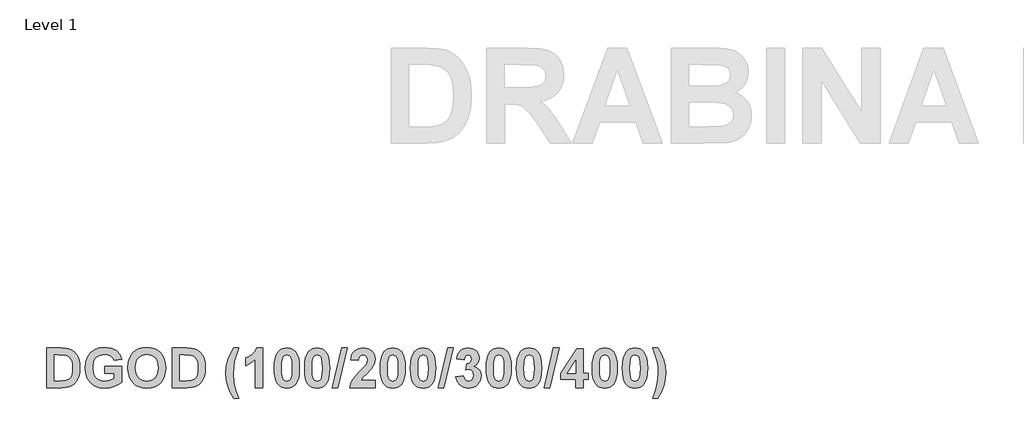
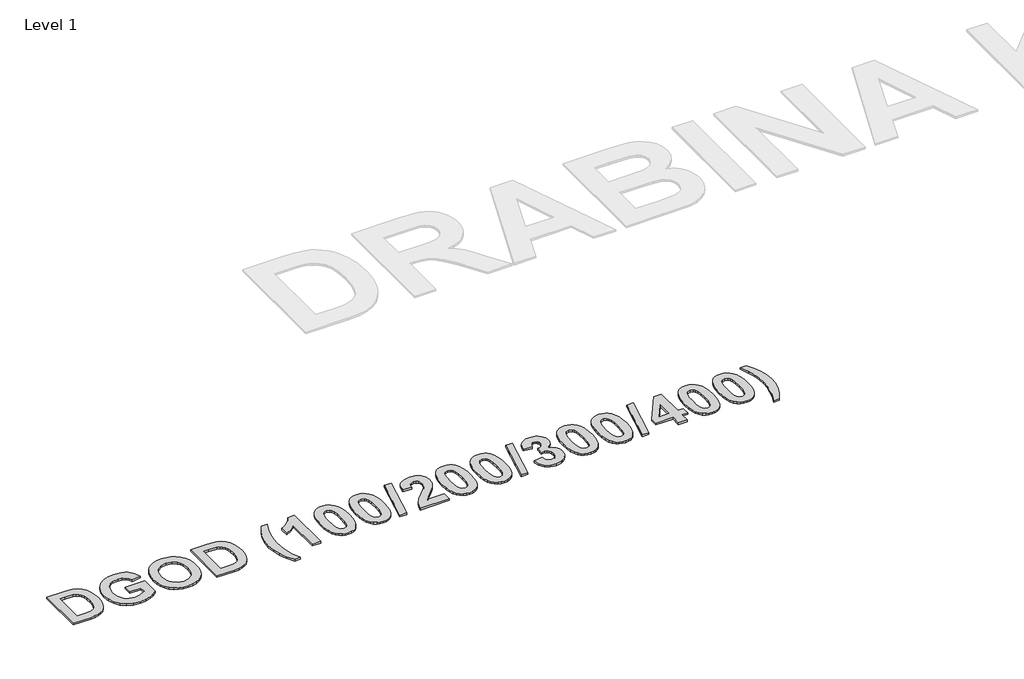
# One storey, part 28 of 42: 1 proxy.
"""IFC4 building model written with IfcOpenShell, lengths in millimetres."""

from ifc_helpers import new_model, si_unit, origin, origin_with_axes, place, context, project, spatial, polyline, outline, extrude, element, save

model = new_model("IFC4")

# Units and contexts
model_context = context("Model", 3, world=origin())
ifc_project = project(units=[si_unit("LENGTHUNIT", "METRE", prefix="MILLI")], contexts=[model_context])

# Site, building, storey
site = spatial("IfcSite", under=ifc_project)
building = spatial("IfcBuilding", under=site)
storey = spatial("IfcBuildingStorey", under=building, Name="Level 1", Elevation=0.0)

# Proxy
placement = place(None, origin())
element("IfcBuildingElementProxy", 1, Name="300mm Arial 2", ObjectType="300mm Arial 2", at=placement, inside=storey, context=model_context, shape_type="SweptSolid", body=[
    extrude(outline(polyline([(13543.7052644, 4462.1558373), (13638.1526406, 4462.1558373), (13666.3033991, 4460.9380798), (13686.8629418, 4457.2848072), (13707.7704153, 4448.0883656), (13725.451622, 4433.7836684), (13739.5981689, 4415.0270394), (13749.9016628, 4392.4748025), (13756.1881384, 4365.1701483), (13758.2836302, 4332.1562672), (13756.3225661, 4302.8668264), (13750.4393739, 4277.8790744), (13738.7678797, 4252.7015421), (13722.9844769, 4232.8378608), (13707.2010741, 4221.2296267), (13686.6731614, 4212.4680985), (13666.6987749, 4208.4352651), (13640.9360864, 4207.0909873), (13543.7052644, 4207.0909873), (13543.7052644, 4462.1558373)]), holes=[polyline([(13592.2890453, 4417.6207048), (13592.2890453, 4251.6261199), (13633.6611713, 4251.6261199), (13667.1890409, 4254.0300049), (13689.5514974, 4264.4362965), (13697.6250717, 4274.1704492), (13704.0696976, 4288.6332968), (13708.2923113, 4308.5286081), (13709.6998493, 4334.5601522), (13708.2923113, 4360.2279505), (13704.0696976, 4379.1585449), (13697.3245861, 4393.0125137), (13688.3495549, 4403.4504354), (13676.8915636, 4410.7569805), (13662.6975716, 4415.2168198), (13617.2135371, 4417.6207048), (13592.2890453, 4417.6207048)])]), origin_with_axes(), (0.0, 0.0, 1.0), 10.0),
    extrude(outline(polyline([(13916.1809183, 4300.2099008), (13916.1809183, 4344.7450334), (14025.4944254, 4344.7450334), (14025.4944254, 4243.022742), (14005.9786749, 4228.1012585), (13979.3145295, 4215.093394), (13948.8864063, 4206.0551027), (13918.0787223, 4203.0423389), (13881.2455107, 4207.2333226), (13849.4414796, 4219.8062738), (13823.7894963, 4240.1681286), (13805.4124281, 4267.7258233), (13794.3577202, 4300.2494384), (13790.6728175, 4335.5090542), (13794.8400787, 4373.0302196), (13807.3418622, 4406.1389909), (13827.8776823, 4433.4436452), (13856.1470536, 4453.5524595), (13883.6335807, 4463.0414792), (13917.1298203, 4466.2044857), (13959.3322355, 4461.0962301), (13976.5488756, 4454.7109106), (13991.1758041, 4445.7714633), (14013.0875322, 4421.4321277), (14025.4944254, 4389.2801659), (13976.9106445, 4381.1828691), (13968.7342725, 4397.9863415), (13955.5919802, 4410.8202407), (13938.0214787, 4418.9570751), (13916.5604791, 4421.6693532), (13884.756448, 4416.3713172), (13871.5706644, 4409.7487722), (13860.195702, 4400.4772092), (13851.0348442, 4388.5961657), (13844.4913743, 4374.1451795), (13839.2565985, 4337.5333784), (13844.4597443, 4298.1776691), (13850.9636765, 4282.7164976), (13860.0691817, 4270.0664482), (13871.2859938, 4260.2275209), (13884.1238467, 4253.1997157), (13914.6626752, 4247.5774715), (13948.0956546, 4253.7453343), (13976.9106445, 4268.7063554), (13976.9106445, 4300.2099008), (13916.1809183, 4300.2099008)])), origin_with_axes(), (0.0, 0.0, 1.0), 10.0),
    extrude(outline(polyline([(14065.9809096, 4333.0419091), (14068.8434305, 4368.8155134), (14077.4309934, 4398.3263647), (14087.5288918, 4416.7587855), (14100.7423518, 4433.2143272), (14116.2173615, 4446.6808277), (14133.099909, 4456.1461248), (14158.3090714, 4463.6898955), (14187.1240613, 4466.2044857), (14213.4165534, 4464.0239881), (14236.9414148, 4457.4824951), (14257.6986454, 4446.5800068), (14275.6882453, 4431.3165233), (14290.2183068, 4412.1704491), (14300.5969221, 4389.6201891), (14306.8240913, 4363.6657433), (14308.8998143, 4334.3071117), (14306.8399063, 4305.1481448), (14300.6601822, 4279.3498725), (14290.3606421, 4256.9122946), (14275.9412858, 4237.8354112), (14258.0702987, 4222.6134421), (14237.4158658, 4211.740607), (14213.9779871, 4205.216906), (14187.7566626, 4203.0423389), (14161.258575, 4205.2070216), (14137.6230084, 4211.7010694), (14116.8499628, 4222.5244825), (14098.9394381, 4237.6772609), (14084.5200818, 4256.6256471), (14074.2205417, 4278.8358839), (14068.0408176, 4304.3079712), (14065.9809096, 4333.0419091)]), holes=[polyline([(14114.5646905, 4334.8131927), (14119.7282988, 4297.0627093), (14126.182809, 4282.0898269), (14135.2191234, 4269.7185175), (14158.6649097, 4253.112733), (14187.6934025, 4247.5774715), (14216.6586352, 4253.0731954), (14239.914641, 4269.5603672), (14248.8402502, 4281.925746), (14255.2156853, 4297.0389867), (14260.3160334, 4335.5090542), (14255.3501131, 4373.4018729), (14249.1427127, 4388.2205587), (14240.4523521, 4400.2874288), (14217.3307741, 4416.3238721), (14187.6934025, 4421.6693532), (14157.9927708, 4416.260612), (14134.6814123, 4400.0343883), (14125.8803465, 4387.8449517), (14119.593871, 4372.9116069), (14114.5646905, 4334.8131927)])]), origin_with_axes(), (0.0, 0.0, 1.0), 10.0),
    extrude(outline(polyline([(14349.3862984, 4462.1558373), (14443.8336747, 4462.1558373), (14471.9844332, 4460.9380798), (14492.5439759, 4457.2848072), (14513.4514494, 4448.0883656), (14531.1326561, 4433.7836684), (14545.279203, 4415.0270394), (14555.5826969, 4392.4748025), (14561.8691725, 4365.1701483), (14563.9646643, 4332.1562672), (14562.0036002, 4302.8668264), (14556.120408, 4277.8790744), (14544.4489138, 4252.7015421), (14528.665511, 4232.8378608), (14512.8821082, 4221.2296267), (14492.3541955, 4212.4680985), (14472.379809, 4208.4352651), (14446.6171205, 4207.0909873), (14349.3862984, 4207.0909873), (14349.3862984, 4462.1558373)]), holes=[polyline([(14397.9700794, 4417.6207048), (14397.9700794, 4251.6261199), (14439.3422054, 4251.6261199), (14472.870075, 4254.0300049), (14495.2325315, 4264.4362965), (14503.3061058, 4274.1704492), (14509.7507317, 4288.6332968), (14513.9733454, 4308.5286081), (14515.3808834, 4334.5601522), (14513.9733454, 4360.2279505), (14509.7507317, 4379.1585449), (14503.0056201, 4393.0125137), (14494.030589, 4403.4504354), (14482.5725977, 4410.7569805), (14468.3786057, 4415.2168198), (14422.8945712, 4417.6207048), (14397.9700794, 4417.6207048)])]), origin_with_axes(), (0.0, 0.0, 1.0), 10.0),
    extrude(outline(polyline([(14778.5430302, 4138.2639643), (14746.1538429, 4138.2639643), (14723.4829933, 4177.9359743), (14706.9641914, 4219.1420424), (14696.882108, 4260.4430007), (14693.5214135, 4300.3996812), (14697.6333221, 4347.7973347), (14709.9690477, 4392.5696927), (14726.1636413, 4428.8493781), (14746.1538429, 4462.1558373), (14778.5430302, 4462.1558373), (14760.9804362, 4414.9163342), (14749.9178207, 4375.2996769), (14744.058351, 4338.4190202), (14742.1051945, 4299.3875191), (14746.7864442, 4242.7380714), (14759.6282509, 4187.670127), (14778.5430302, 4138.2639643)])), origin_with_axes(), (0.0, 0.0, 1.0), 10.0),
    extrude(outline(polyline([(14932.3916699, 4207.0909873), (14883.8078889, 4207.0909873), (14883.8078889, 4389.4066862), (14855.7520206, 4365.5259866), (14823.0781627, 4348.7936818), (14823.0781627, 4397.3774627), (14842.5464682, 4406.4631991), (14863.627907, 4421.1949022), (14882.0840503, 4440.2124792), (14893.6764694, 4462.1558373), (14932.3916699, 4462.1558373), (14932.3916699, 4207.0909873)])), origin_with_axes(), (0.0, 0.0, 1.0), 10.0),
    extrude(outline(polyline([(15086.2403095, 4462.1558373), (15103.3719439, 4460.5110739), (15118.5187916, 4455.5767837), (15131.6808527, 4447.3529666), (15142.8581272, 4435.8396227), (15153.5135056, 4417.7116412), (15161.1244901, 4394.4516817), (15165.6910809, 4366.0597439), (15167.2132778, 4332.535828), (15165.6831733, 4299.0435422), (15161.0928601, 4270.6199744), (15153.4423379, 4247.2651246), (15142.7316069, 4228.9789928), (15131.609685, 4217.6317067), (15118.4871615, 4209.5265024), (15103.3640364, 4204.6633798), (15086.2403095, 4203.0423389), (15068.9327329, 4204.8215301), (15053.3845788, 4210.1591037), (15039.595847, 4219.0550597), (15027.5665376, 4231.5093981), (15017.8106392, 4248.5303272), (15010.8421404, 4271.1260554), (15006.661041, 4299.2965827), (15005.2673413, 4333.0419091), (15006.7974457, 4366.3681371), (15011.387759, 4394.6730921), (15019.0382811, 4417.9567742), (15029.7490121, 4436.2191834), (15040.870934, 4447.5664695), (15053.9934575, 4455.6716739), (15069.1165827, 4460.5347965), (15086.2403095, 4462.1558373)]), holes=[polyline([(15086.2403095, 4417.6207048), (15070.0457159, 4412.2752237), (15063.7197027, 4404.8026207), (15059.038453, 4393.0757738), (15055.1479549, 4368.9262186), (15053.8511222, 4332.535828), (15055.0056196, 4296.6277959), (15058.4691118, 4274.0518365), (15063.6959802, 4260.7988389), (15070.1406061, 4252.8596924), (15086.2403095, 4247.5774715), (15102.4349032, 4252.9229526), (15108.7609163, 4260.3955556), (15113.442166, 4272.1224025), (15117.3326641, 4296.1454374), (15118.6294968, 4332.535828), (15117.4749994, 4368.4043225), (15114.0115072, 4390.9881895), (15108.7846389, 4404.2807246), (15102.340013, 4412.2752237), (15086.2403095, 4417.6207048)])]), origin_with_axes(), (0.0, 0.0, 1.0), 10.0),
    extrude(outline(polyline([(15280.5754333, 4462.1558373), (15297.7070677, 4460.5110739), (15312.8539154, 4455.5767837), (15326.0159765, 4447.3529666), (15337.193251, 4435.8396227), (15347.8486294, 4417.7116412), (15355.4596139, 4394.4516817), (15360.0262047, 4366.0597439), (15361.5484016, 4332.535828), (15360.0182972, 4299.0435422), (15355.4279839, 4270.6199744), (15347.7774617, 4247.2651246), (15337.0667307, 4228.9789928), (15325.9448089, 4217.6317067), (15312.8222853, 4209.5265024), (15297.6991602, 4204.6633798), (15280.5754333, 4203.0423389), (15263.2678567, 4204.8215301), (15247.7197026, 4210.1591037), (15233.9309708, 4219.0550597), (15221.9016614, 4231.5093981), (15212.145763, 4248.5303272), (15205.1772642, 4271.1260554), (15200.9961648, 4299.2965827), (15199.6024651, 4333.0419091), (15201.1325695, 4366.3681371), (15205.7228828, 4394.6730921), (15213.3734049, 4417.9567742), (15224.0841359, 4436.2191834), (15235.2060578, 4447.5664695), (15248.3285813, 4455.6716739), (15263.4517065, 4460.5347965), (15280.5754333, 4462.1558373)]), holes=[polyline([(15280.5754333, 4417.6207048), (15264.3808397, 4412.2752237), (15258.0548265, 4404.8026207), (15253.3735768, 4393.0757738), (15249.4830787, 4368.9262186), (15248.186246, 4332.535828), (15249.3407434, 4296.6277959), (15252.8042356, 4274.0518365), (15258.031104, 4260.7988389), (15264.4757299, 4252.8596924), (15280.5754333, 4247.5774715), (15296.770027, 4252.9229526), (15303.0960401, 4260.3955556), (15307.7772899, 4272.1224025), (15311.6677879, 4296.1454374), (15312.9646206, 4332.535828), (15311.8101232, 4368.4043225), (15308.346631, 4390.9881895), (15303.1197627, 4404.2807246), (15296.6751368, 4412.2752237), (15280.5754333, 4417.6207048)])]), origin_with_axes(), (0.0, 0.0, 1.0), 10.0),
    extrude(outline(polyline([(15376.8573534, 4207.0909873), (15437.5870796, 4462.1558373), (15474.9105571, 4462.1558373), (15414.1808309, 4207.0909873), (15376.8573534, 4207.0909873)])), origin_with_axes(), (0.0, 0.0, 1.0), 10.0),
    extrude(outline(polyline([(15653.0510873, 4255.6747683), (15653.0510873, 4207.0909873), (15491.1051508, 4207.0909873), (15496.2766665, 4231.5963808), (15506.603883, 4254.7574964), (15525.7875178, 4280.9392833), (15557.5282888, 4314.5066905), (15595.1048069, 4355.2462152), (15602.1266815, 4369.9541958), (15604.4673063, 4384.4723959), (15602.4983347, 4398.6189428), (15596.59142, 4409.048957), (15587.221013, 4415.4777678), (15574.8615648, 4417.6207048), (15562.5890993, 4415.5093979), (15553.1000796, 4409.1754773), (15546.7108063, 4397.9547114), (15543.7375801, 4381.1828691), (15495.1537992, 4385.6110783), (15503.7571771, 4420.7599888), (15511.3800229, 4433.9991482), (15521.2169733, 4444.3481103), (15545.8409795, 4457.7039056), (15575.936987, 4462.1558373), (15608.0731338, 4457.1661945), (15632.4915446, 4442.1972659), (15647.9112016, 4419.8110869), (15653.0510873, 4392.5696927), (15647.4209356, 4360.433546), (15629.5815785, 4328.4871796), (15599.3748658, 4296.6040733), (15571.6352981, 4268.9593959), (15562.5258392, 4255.6747683), (15653.0510873, 4255.6747683)])), origin_with_axes(), (0.0, 0.0, 1.0), 10.0),
    extrude(outline(polyline([(15766.4132428, 4462.1558373), (15783.5448772, 4460.5110739), (15798.6917249, 4455.5767837), (15811.853786, 4447.3529666), (15823.0310605, 4435.8396227), (15833.6864389, 4417.7116412), (15841.2974234, 4394.4516817), (15845.8640142, 4366.0597439), (15847.3862111, 4332.535828), (15845.8561067, 4299.0435422), (15841.2657934, 4270.6199744), (15833.6152712, 4247.2651246), (15822.9045402, 4228.9789928), (15811.7826184, 4217.6317067), (15798.6600948, 4209.5265024), (15783.5369697, 4204.6633798), (15766.4132428, 4203.0423389), (15749.1056662, 4204.8215301), (15733.5575121, 4210.1591037), (15719.7687803, 4219.0550597), (15707.7394709, 4231.5093981), (15697.9835725, 4248.5303272), (15691.0150737, 4271.1260554), (15686.8339744, 4299.2965827), (15685.4402746, 4333.0419091), (15686.970379, 4366.3681371), (15691.5606923, 4394.6730921), (15699.2112144, 4417.9567742), (15709.9219455, 4436.2191834), (15721.0438673, 4447.5664695), (15734.1663908, 4455.6716739), (15749.289516, 4460.5347965), (15766.4132428, 4462.1558373)]), holes=[polyline([(15766.4132428, 4417.6207048), (15750.2186492, 4412.2752237), (15743.892636, 4404.8026207), (15739.2113863, 4393.0757738), (15735.3208882, 4368.9262186), (15734.0240555, 4332.535828), (15735.1785529, 4296.6277959), (15738.6420451, 4274.0518365), (15743.8689135, 4260.7988389), (15750.3135394, 4252.8596924), (15766.4132428, 4247.5774715), (15782.6078365, 4252.9229526), (15788.9338496, 4260.3955556), (15793.6150994, 4272.1224025), (15797.5055974, 4296.1454374), (15798.8024301, 4332.535828), (15797.6479327, 4368.4043225), (15794.1844405, 4390.9881895), (15788.9575722, 4404.2807246), (15782.5129463, 4412.2752237), (15766.4132428, 4417.6207048)])]), origin_with_axes(), (0.0, 0.0, 1.0), 10.0),
    extrude(outline(polyline([(15960.7483666, 4462.1558373), (15977.880001, 4460.5110739), (15993.0268487, 4455.5767837), (16006.1889098, 4447.3529666), (16017.3661843, 4435.8396227), (16028.0215627, 4417.7116412), (16035.6325472, 4394.4516817), (16040.199138, 4366.0597439), (16041.7213349, 4332.535828), (16040.1912305, 4299.0435422), (16035.6009172, 4270.6199744), (16027.950395, 4247.2651246), (16017.239664, 4228.9789928), (16006.1177422, 4217.6317067), (15992.9952186, 4209.5265024), (15977.8720935, 4204.6633798), (15960.7483666, 4203.0423389), (15943.44079, 4204.8215301), (15927.8926359, 4210.1591037), (15914.1039041, 4219.0550597), (15902.0745947, 4231.5093981), (15892.3186963, 4248.5303272), (15885.3501975, 4271.1260554), (15881.1690982, 4299.2965827), (15879.7753984, 4333.0419091), (15881.3055028, 4366.3681371), (15885.8958161, 4394.6730921), (15893.5463382, 4417.9567742), (15904.2570693, 4436.2191834), (15915.3789911, 4447.5664695), (15928.5015146, 4455.6716739), (15943.6246398, 4460.5347965), (15960.7483666, 4462.1558373)]), holes=[polyline([(15960.7483666, 4417.6207048), (15944.553773, 4412.2752237), (15938.2277598, 4404.8026207), (15933.5465101, 4393.0757738), (15929.656012, 4368.9262186), (15928.3591793, 4332.535828), (15929.5136767, 4296.6277959), (15932.9771689, 4274.0518365), (15938.2040373, 4260.7988389), (15944.6486632, 4252.8596924), (15960.7483666, 4247.5774715), (15976.9429603, 4252.9229526), (15983.2689734, 4260.3955556), (15987.9502232, 4272.1224025), (15991.8407212, 4296.1454374), (15993.1375539, 4332.535828), (15991.9830565, 4368.4043225), (15988.5195643, 4390.9881895), (15983.292696, 4404.2807246), (15976.8480701, 4412.2752237), (15960.7483666, 4417.6207048)])]), origin_with_axes(), (0.0, 0.0, 1.0), 10.0),
    extrude(outline(polyline([(16057.0302867, 4207.0909873), (16117.7600129, 4462.1558373), (16155.0834904, 4462.1558373), (16094.3537642, 4207.0909873), (16057.0302867, 4207.0909873)])), origin_with_axes(), (0.0, 0.0, 1.0), 10.0),
    extrude(outline(polyline([(16171.2780841, 4278.3851555), (16219.861865, 4284.0153072), (16223.6100278, 4268.3900547), (16230.8058678, 4256.9399709), (16240.6586332, 4249.9180963), (16252.3775726, 4247.5774715), (16264.9505237, 4250.2581195), (16275.3410003, 4258.3000638), (16282.3154298, 4270.8809224), (16284.6402396, 4287.1783138), (16282.5131177, 4302.5979708), (16276.131752, 4314.4434304), (16266.6822698, 4321.9872011), (16255.3507988, 4324.5017913), (16236.0564587, 4320.8959638), (16240.2948875, 4360.939627), (16254.1251337, 4362.6792806), (16264.2388472, 4368.9104036), (16270.4304326, 4378.7789841), (16272.4942944, 4391.4310104), (16270.9523287, 4402.1773252), (16266.3264316, 4410.50394), (16259.1384991, 4415.8415136), (16249.9104275, 4417.6207048), (16240.5242055, 4415.556843), (16232.6087815, 4409.3652576), (16226.844202, 4399.204099), (16223.9105134, 4385.2315175), (16175.3267325, 4392.5064326), (16180.8857165, 4414.2441953), (16188.7062503, 4431.1267429), (16199.4288426, 4444.0397172), (16213.6940022, 4453.8687601), (16230.687255, 4460.084068), (16249.5941268, 4462.1558373), (16280.2436605, 4456.4149804), (16293.0301146, 4449.2389092), (16304.1243601, 4439.1924096), (16316.8396465, 4419.170578), (16321.0780753, 4396.6816013), (16318.8046644, 4380.7360944), (16311.9844315, 4366.4907036), (16300.6173766, 4353.9454287), (16284.7034998, 4343.10027), (16304.567181, 4335.5485918), (16320.0026531, 4322.2560566), (16329.9186787, 4304.392977), (16333.2240206, 4283.1296653), (16327.3645509, 4252.3615189), (16309.7861419, 4226.4802176), (16297.3495954, 4216.2261457), (16283.4778347, 4208.9018086), (16251.4286706, 4203.0423389), (16221.1666052, 4208.2533923), (16196.5505066, 4223.8865522), (16179.3358433, 4247.9333097), (16171.2780841, 4278.3851555)])), origin_with_axes(), (0.0, 0.0, 1.0), 10.0),
    extrude(outline(polyline([(16446.5861761, 4462.1558373), (16463.7178105, 4460.5110739), (16478.8646582, 4455.5767837), (16492.0267193, 4447.3529666), (16503.2039938, 4435.8396227), (16513.8593722, 4417.7116412), (16521.4703567, 4394.4516817), (16526.0369475, 4366.0597439), (16527.5591444, 4332.535828), (16526.02904, 4299.0435422), (16521.4387267, 4270.6199744), (16513.7882045, 4247.2651246), (16503.0774735, 4228.9789928), (16491.9555517, 4217.6317067), (16478.8330281, 4209.5265024), (16463.709903, 4204.6633798), (16446.5861761, 4203.0423389), (16429.2785995, 4204.8215301), (16413.7304454, 4210.1591037), (16399.9417136, 4219.0550597), (16387.9124042, 4231.5093981), (16378.1565058, 4248.5303272), (16371.188007, 4271.1260554), (16367.0069077, 4299.2965827), (16365.6132079, 4333.0419091), (16367.1433123, 4366.3681371), (16371.7336256, 4394.6730921), (16379.3841478, 4417.9567742), (16390.0948788, 4436.2191834), (16401.2168006, 4447.5664695), (16414.3393241, 4455.6716739), (16429.4624493, 4460.5347965), (16446.5861761, 4462.1558373)]), holes=[polyline([(16446.5861761, 4417.6207048), (16430.3915825, 4412.2752237), (16424.0655693, 4404.8026207), (16419.3843196, 4393.0757738), (16415.4938215, 4368.9262186), (16414.1969888, 4332.535828), (16415.3514862, 4296.6277959), (16418.8149784, 4274.0518365), (16424.0418468, 4260.7988389), (16430.4864727, 4252.8596924), (16446.5861761, 4247.5774715), (16462.7807698, 4252.9229526), (16469.1067829, 4260.3955556), (16473.7880327, 4272.1224025), (16477.6785307, 4296.1454374), (16478.9753634, 4332.535828), (16477.820866, 4368.4043225), (16474.3573738, 4390.9881895), (16469.1305055, 4404.2807246), (16462.6858796, 4412.2752237), (16446.5861761, 4417.6207048)])]), origin_with_axes(), (0.0, 0.0, 1.0), 10.0),
    extrude(outline(polyline([(16640.9212999, 4462.1558373), (16658.0529343, 4460.5110739), (16673.199782, 4455.5767837), (16686.3618431, 4447.3529666), (16697.5391176, 4435.8396227), (16708.194496, 4417.7116412), (16715.8054805, 4394.4516817), (16720.3720713, 4366.0597439), (16721.8942682, 4332.535828), (16720.3641638, 4299.0435422), (16715.7738505, 4270.6199744), (16708.1233283, 4247.2651246), (16697.4125973, 4228.9789928), (16686.2906755, 4217.6317067), (16673.1681519, 4209.5265024), (16658.0450268, 4204.6633798), (16640.9212999, 4203.0423389), (16623.6137234, 4204.8215301), (16608.0655692, 4210.1591037), (16594.2768374, 4219.0550597), (16582.247528, 4231.5093981), (16572.4916296, 4248.5303272), (16565.5231308, 4271.1260554), (16561.3420315, 4299.2965827), (16559.9483317, 4333.0419091), (16561.4784361, 4366.3681371), (16566.0687494, 4394.6730921), (16573.7192716, 4417.9567742), (16584.4300026, 4436.2191834), (16595.5519244, 4447.5664695), (16608.6744479, 4455.6716739), (16623.7975731, 4460.5347965), (16640.9212999, 4462.1558373)]), holes=[polyline([(16640.9212999, 4417.6207048), (16624.7267063, 4412.2752237), (16618.4006931, 4404.8026207), (16613.7194434, 4393.0757738), (16609.8289453, 4368.9262186), (16608.5321126, 4332.535828), (16609.68661, 4296.6277959), (16613.1501022, 4274.0518365), (16618.3769706, 4260.7988389), (16624.8215965, 4252.8596924), (16640.9212999, 4247.5774715), (16657.1158936, 4252.9229526), (16663.4419067, 4260.3955556), (16668.1231565, 4272.1224025), (16672.0136545, 4296.1454374), (16673.3104872, 4332.535828), (16672.1559898, 4368.4043225), (16668.6924976, 4390.9881895), (16663.4656293, 4404.2807246), (16657.0210034, 4412.2752237), (16640.9212999, 4417.6207048)])]), origin_with_axes(), (0.0, 0.0, 1.0), 10.0),
    extrude(outline(polyline([(16737.20322, 4207.0909873), (16797.9329462, 4462.1558373), (16835.2564237, 4462.1558373), (16774.5266976, 4207.0909873), (16737.20322, 4207.0909873)])), origin_with_axes(), (0.0, 0.0, 1.0), 10.0),
    extrude(outline(polyline([(16940.5212825, 4207.0909873), (16940.5212825, 4259.7234167), (16843.3537206, 4259.7234167), (16843.3537206, 4300.0201204), (16946.9738159, 4458.1071889), (16989.1050634, 4458.1071889), (16989.1050634, 4300.2099008), (17021.4942507, 4300.2099008), (17021.4942507, 4259.7234167), (16989.1050634, 4259.7234167), (16989.1050634, 4207.0909873), (16940.5212825, 4207.0909873)]), holes=[polyline([(16940.5212825, 4300.2099008), (16940.5212825, 4383.080673), (16886.2440897, 4300.2099008), (16940.5212825, 4300.2099008)])]), origin_with_axes(), (0.0, 0.0, 1.0), 10.0),
    extrude(outline(polyline([(17126.7591094, 4462.1558373), (17143.8907438, 4460.5110739), (17159.0375915, 4455.5767837), (17172.1996526, 4447.3529666), (17183.3769271, 4435.8396227), (17194.0323055, 4417.7116412), (17201.64329, 4394.4516817), (17206.2098808, 4366.0597439), (17207.7320777, 4332.535828), (17206.2019733, 4299.0435422), (17201.61166, 4270.6199744), (17193.9611378, 4247.2651246), (17183.2504068, 4228.9789928), (17172.128485, 4217.6317067), (17159.0059614, 4209.5265024), (17143.8828363, 4204.6633798), (17126.7591094, 4203.0423389), (17109.4515329, 4204.8215301), (17093.9033787, 4210.1591037), (17080.1146469, 4219.0550597), (17068.0853375, 4231.5093981), (17058.3294391, 4248.5303272), (17051.3609403, 4271.1260554), (17047.179841, 4299.2965827), (17045.7861412, 4333.0419091), (17047.3162456, 4366.3681371), (17051.9065589, 4394.6730921), (17059.5570811, 4417.9567742), (17070.2678121, 4436.2191834), (17081.3897339, 4447.5664695), (17094.5122574, 4455.6716739), (17109.6353826, 4460.5347965), (17126.7591094, 4462.1558373)]), holes=[polyline([(17126.7591094, 4417.6207048), (17110.5645158, 4412.2752237), (17104.2385026, 4404.8026207), (17099.5572529, 4393.0757738), (17095.6667548, 4368.9262186), (17094.3699221, 4332.535828), (17095.5244195, 4296.6277959), (17098.9879117, 4274.0518365), (17104.2147801, 4260.7988389), (17110.659406, 4252.8596924), (17126.7591094, 4247.5774715), (17142.9537031, 4252.9229526), (17149.2797162, 4260.3955556), (17153.960966, 4272.1224025), (17157.851464, 4296.1454374), (17159.1482967, 4332.535828), (17157.9937993, 4368.4043225), (17154.5303071, 4390.9881895), (17149.3034388, 4404.2807246), (17142.8588129, 4412.2752237), (17126.7591094, 4417.6207048)])]), origin_with_axes(), (0.0, 0.0, 1.0), 10.0),
    extrude(outline(polyline([(17321.0942332, 4462.1558373), (17338.2258676, 4460.5110739), (17353.3727153, 4455.5767837), (17366.5347764, 4447.3529666), (17377.7120509, 4435.8396227), (17388.3674293, 4417.7116412), (17395.9784138, 4394.4516817), (17400.5450046, 4366.0597439), (17402.0672015, 4332.535828), (17400.5370971, 4299.0435422), (17395.9467838, 4270.6199744), (17388.2962616, 4247.2651246), (17377.5855306, 4228.9789928), (17366.4636088, 4217.6317067), (17353.3410852, 4209.5265024), (17338.2179601, 4204.6633798), (17321.0942332, 4203.0423389), (17303.7866567, 4204.8215301), (17288.2385025, 4210.1591037), (17274.4497707, 4219.0550597), (17262.4204613, 4231.5093981), (17252.6645629, 4248.5303272), (17245.6960641, 4271.1260554), (17241.5149648, 4299.2965827), (17240.121265, 4333.0419091), (17241.6513694, 4366.3681371), (17246.2416827, 4394.6730921), (17253.8922049, 4417.9567742), (17264.6029359, 4436.2191834), (17275.7248577, 4447.5664695), (17288.8473812, 4455.6716739), (17303.9705064, 4460.5347965), (17321.0942332, 4462.1558373)]), holes=[polyline([(17321.0942332, 4417.6207048), (17304.8996396, 4412.2752237), (17298.5736264, 4404.8026207), (17293.8923767, 4393.0757738), (17290.0018786, 4368.9262186), (17288.7050459, 4332.535828), (17289.8595433, 4296.6277959), (17293.3230355, 4274.0518365), (17298.5499039, 4260.7988389), (17304.9945298, 4252.8596924), (17321.0942332, 4247.5774715), (17337.2888269, 4252.9229526), (17343.61484, 4260.3955556), (17348.2960898, 4272.1224025), (17352.1865878, 4296.1454374), (17353.4834205, 4332.535828), (17352.3289231, 4368.4043225), (17348.8654309, 4390.9881895), (17343.6385626, 4404.2807246), (17337.1939367, 4412.2752237), (17321.0942332, 4417.6207048)])]), origin_with_axes(), (0.0, 0.0, 1.0), 10.0),
    extrude(outline(polyline([(17434.4563888, 4138.2639643), (17452.4538962, 4184.2540799), (17462.1326963, 4221.1663666), (17468.74338, 4260.8620991), (17470.8942245, 4299.3875191), (17468.9489755, 4338.4190202), (17463.1132283, 4375.2996769), (17452.0585204, 4414.9163342), (17434.4563888, 4462.1558373), (17466.8455761, 4462.1558373), (17489.0419747, 4424.8165448), (17505.6556667, 4385.2947776), (17516.0224208, 4344.3971027), (17519.4780055, 4302.9300865), (17516.7103747, 4266.4289906), (17508.4074825, 4227.3974895), (17491.6909927, 4182.5302413), (17466.8455761, 4138.2639643), (17434.4563888, 4138.2639643)])), origin_with_axes(), (0.0, 0.0, 1.0), 10.0),
])

save(model, "model.ifc")
